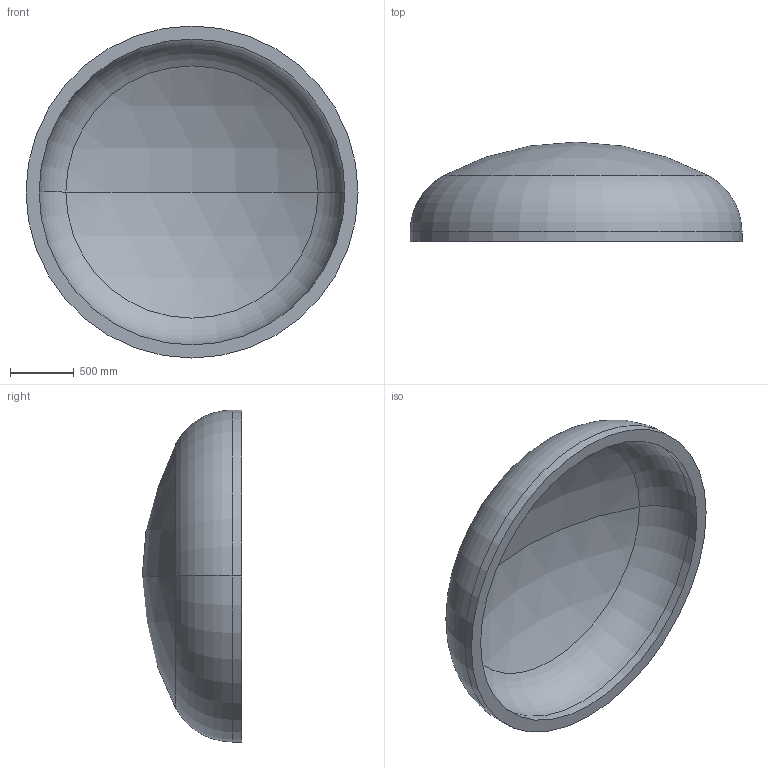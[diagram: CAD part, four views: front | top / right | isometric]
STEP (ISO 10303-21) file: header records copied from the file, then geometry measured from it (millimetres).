
FILE_DESCRIPTION (( 'STEP AP203' ), '1' );
FILE_NAME ('DIN 28013 Korbbogenform_-_Boden DIN 28013 - 2600 x 75 - I - s=102.step', '2016-07-01T16:31:50', ( '' ), ( '' ), 'SwSTEP 2.0', 'SolidWorks 2013', '' );
FILE_SCHEMA (( 'CONFIG_CONTROL_DESIGN' ));
Length unit declared in the file: millimetre
Products named in the file (1): DIN 28013 Korbbogenform_-_Boden DIN 28013 - 2600 x 75 - I - s=102
Bounding box: 2600 x 778.62 x 2600 mm (x, y, z)
Volume: 772731113.6 mm3; surface area: 15973841.1 mm2
Topology: 1 solids, 1 shells, 13 faces, 24 edges, 14 vertices
Faces by surface type: torus 4, cylinder 4, sphere 4, plane 1
Entity records: 407 total; most frequent: DIRECTION 72, CARTESIAN_POINT 52, ORIENTED_EDGE 48, AXIS2_PLACEMENT_3D 34, EDGE_CURVE 24, CIRCLE 20, EDGE_LOOP 14, VERTEX_POINT 14
